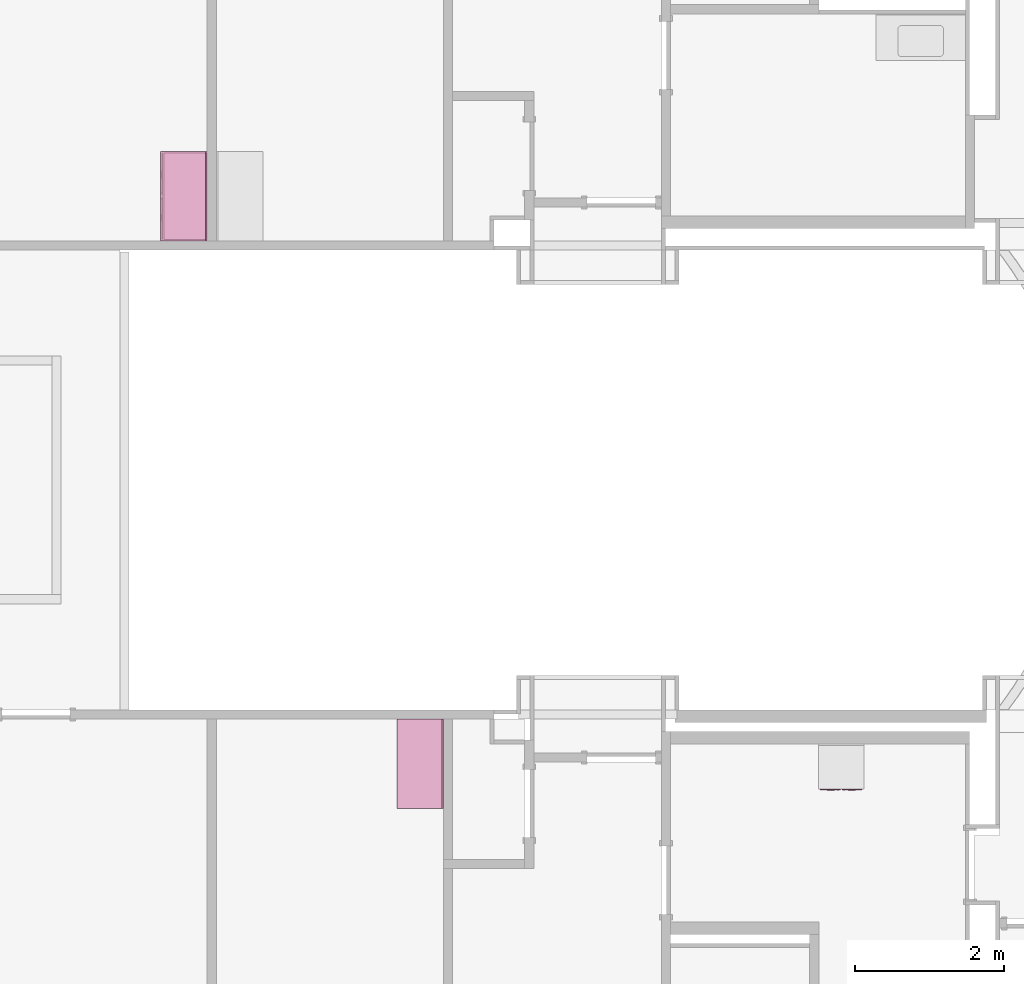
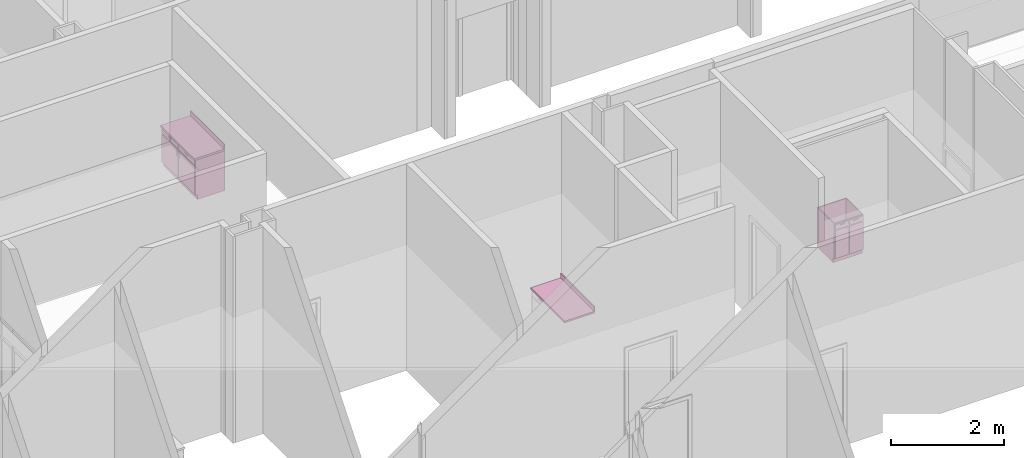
# One storey, part 80 of 87: 4 furnishings, 2 openings.
"""IFC2X3 building model written with IfcOpenShell, lengths in metres."""

from ifc_helpers import new_model, entity, si_unit, converted_unit, frame, frame_2d, origin, place, context, project, spatial, polyline, circle_curve, parameter, trimmed, segment, composite_curve, outline, extrude, face_set, surface_model, source, transform, mapped, type_object, type_shapes, element, save


model = new_model("IFC2X3")

# Units and contexts
model_context = context("Model", 3, precision=1e-09, world=origin())
plan_context = context("Plan", 3, precision=1e-09, world=origin())
ifc_project = project(units=[si_unit("LENGTHUNIT", "METRE"), si_unit("AREAUNIT", "SQUARE_METRE"), si_unit("VOLUMEUNIT", "CUBIC_METRE"), converted_unit("PLANEANGLEUNIT", "DEGREE", entity("IfcRatioMeasure", 0.01745329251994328), si_unit("PLANEANGLEUNIT", "RADIAN"), dimensions=[0, 0, 0, 0, 0, 0, 0]), si_unit("TIMEUNIT", "SECOND")], contexts=[model_context, plan_context])

# Site, building, storey, space
site_placement = place(None, origin())
site = spatial("IfcSite", under=ifc_project, at=site_placement, Name="Default", CompositionType="ELEMENT")
building_placement = place(site_placement, origin())
building = spatial("IfcBuilding", under=site, at=building_placement, CompositionType="ELEMENT")
storey_placement = place(building_placement, origin())
storey = spatial("IfcBuildingStorey", under=building, at=storey_placement, Name="First Floor", CompositionType="ELEMENT", Elevation=-3.531500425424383e-13)
space_1_placement = place(storey_placement, origin())
space_1 = spatial("IfcSpace", under=storey, at=space_1_placement, Name="1D40", CompositionType="ELEMENT", InteriorOrExteriorSpace="INTERNAL")

# Furnishing
furniture_type_1 = type_object("IfcFurnitureType", Name="600mm", AssemblyPlace="NOTDEFINED")
shared_shape_1 = source(origin(), model_context, "Body", "SurfaceModel", [
    surface_model("IfcFaceBasedSurfaceModel", [(0.5809499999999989, 0.0444500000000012, 0.86000000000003), (0.5809499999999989, 0.0444500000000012, 0.09999999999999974), (0.01905000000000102, 0.0444500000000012, 0.09999999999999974), (0.01905000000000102, 0.0444500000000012, 0.86000000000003), (0.5999999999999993, 0.02540000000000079, 0.8600000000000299), (0.0, 0.02540000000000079, 0.8600000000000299), (0.5999999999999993, 0.02540000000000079, 0.09999999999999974), (0.0, 0.02540000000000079, 0.0999999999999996), (0.01905000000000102, 0.6063499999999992, 0.86000000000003), (0.01905000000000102, 0.6063499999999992, 0.09999999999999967), (0.01905000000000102, 0.06040000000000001, 0.09999999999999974), (0.0, 0.6253999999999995, 0.8600000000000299), (0.0, 0.6254000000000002, 0.0), (0.0, 0.06040000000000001, 0.0), (0.0, 0.06040000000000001, 0.09999999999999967), (0.5809499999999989, 0.6063499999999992, 0.86000000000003), (0.5809499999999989, 0.6063499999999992, 0.09999999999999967), (0.5999999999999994, 0.6253999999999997, 0.8600000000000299), (0.5999999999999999, 0.6253999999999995, 0.0), (0.5809499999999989, 0.06040000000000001, 0.09999999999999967), (0.5999999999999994, 0.06040000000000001, 0.09999999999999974), (0.5999999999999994, 0.06040000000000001, 0.0), (0.2103250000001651, 0.0, 0.8155500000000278), (0.2103250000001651, 0.0, 0.8028500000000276), (0.1087250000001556, 0.0, 0.8028500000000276), (0.1087250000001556, 0.0, 0.8155500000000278), (0.4912750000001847, 0.0, 0.8155500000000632), (0.4912750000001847, 0.0, 0.8028500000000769), (0.3896750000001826, 0.0, 0.8028500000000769), (0.3896750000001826, 0.0, 0.8155500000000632), (0.2650750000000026, 0.0, 0.6822000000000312), (0.2650750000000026, 0.0, 0.5806000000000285), (0.2523750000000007, 0.0, 0.5806000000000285), (0.2523750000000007, 0.0, 0.6822000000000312), (0.3476249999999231, 0.0, 0.6822000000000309), (0.3476249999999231, 0.0, 0.5806000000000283), (0.3349249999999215, 0.0, 0.5806000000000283), (0.3349249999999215, 0.0, 0.6822000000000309), (0.2103250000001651, 0.0127000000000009, 0.8155500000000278), (0.2103250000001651, 0.0127000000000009, 0.8028500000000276), (0.1087250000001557, 0.01270000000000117, 0.8028500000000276), (0.1087250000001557, 0.01270000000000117, 0.8155500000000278), (0.4912750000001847, 0.01269999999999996, 0.8155500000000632), (0.4912750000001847, 0.01269999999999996, 0.8028500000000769), (0.3896750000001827, 0.01270000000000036, 0.8028500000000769), (0.3896750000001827, 0.01270000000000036, 0.8155500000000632), (0.2650750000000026, 0.01270000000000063, 0.6822000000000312), (0.2650750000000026, 0.01270000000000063, 0.5806000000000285), (0.2523750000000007, 0.01270000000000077, 0.5806000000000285), (0.2523750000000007, 0.01270000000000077, 0.6822000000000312), (0.3476249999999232, 0.0127000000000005, 0.6822000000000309), (0.3476249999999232, 0.0127000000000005, 0.5806000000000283), (0.3349249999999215, 0.0127000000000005, 0.5806000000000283), (0.3349249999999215, 0.0127000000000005, 0.6822000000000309), (0.2904749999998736, 0.01270000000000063, 0.8409500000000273), (0.2904749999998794, 0.01270000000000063, 0.7393500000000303), (0.01905000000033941, 0.01270000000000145, 0.7393500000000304), (0.01905000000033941, 0.01270000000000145, 0.8409500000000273), (0.5809500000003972, 0.01269999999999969, 0.8409500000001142), (0.5809500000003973, 0.01269999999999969, 0.7393500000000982), (0.3095249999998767, 0.0127000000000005, 0.7393500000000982), (0.309524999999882, 0.0127000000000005, 0.8409500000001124), (0.2904749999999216, 0.01270000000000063, 0.7203000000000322), (0.290474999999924, 0.01270000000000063, 0.1190499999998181), (0.01905000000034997, 0.01270000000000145, 0.1190499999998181), (0.01905000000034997, 0.01270000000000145, 0.7203000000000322), (0.5809500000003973, 0.01269999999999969, 0.7203000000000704), (0.5809500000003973, 0.01269999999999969, 0.1190499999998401), (0.3095249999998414, 0.0127000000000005, 0.1190499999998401), (0.3095249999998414, 0.0127000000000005, 0.7203000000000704), (0.2904749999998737, 0.02540000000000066, 0.8409500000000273), (0.2904749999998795, 0.02540000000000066, 0.7393500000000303), (0.01905000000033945, 0.02540000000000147, 0.7393500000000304), (0.01905000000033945, 0.02540000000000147, 0.8409500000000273), (0.5809500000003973, 0.02539999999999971, 0.8409500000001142), (0.5809500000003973, 0.02539999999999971, 0.7393500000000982), (0.3095249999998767, 0.02540000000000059, 0.7393500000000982), (0.309524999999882, 0.02540000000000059, 0.8409500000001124), (0.2904749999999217, 0.02540000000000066, 0.7203000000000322), (0.290474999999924, 0.02540000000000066, 0.1190499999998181), (0.01905000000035, 0.02540000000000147, 0.1190499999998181), (0.01905000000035, 0.02540000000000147, 0.7203000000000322), (0.5809500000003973, 0.02539999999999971, 0.7203000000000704), (0.5809500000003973, 0.02539999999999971, 0.1190499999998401), (0.3095249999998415, 0.02540000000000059, 0.1190499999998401), (0.3095249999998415, 0.02540000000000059, 0.7203000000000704), (0.580949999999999, 0.6063499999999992, 0.1190499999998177), (0.580949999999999, 0.04445000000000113, 0.1190499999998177), (0.01905000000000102, 0.04445000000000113, 0.1190499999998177), (0.01905000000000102, 0.6063499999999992, 0.1190499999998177), (0.580949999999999, 0.6063499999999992, 0.09999999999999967), (0.580949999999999, 0.04445000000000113, 0.09999999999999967), (0.01905000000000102, 0.04445000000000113, 0.09999999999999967), (0.01905000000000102, 0.6063499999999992, 0.09999999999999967)], [face_set([[[0, 1, 2, 3]], [[0, 4, 5, 3]], [[4, 6, 7, 5]], [[2, 1, 6, 7]], [[3, 8, 9, 10, 2]], [[5, 11, 8, 3]], [[7, 5, 11, 12, 13, 14]], [[2, 7, 14, 10]], [[8, 15, 16, 9]], [[11, 17, 15, 8]], [[12, 11, 17, 18]], [[1, 19, 16, 15, 0]], [[0, 15, 17, 4]], [[4, 6, 20, 21, 18, 17]], [[6, 1, 19, 20]], [[10, 9, 16, 19]], [[18, 21, 13, 12]], [[13, 14, 10, 19, 20, 21]]]), face_set([[[22, 23, 24, 25]], [[26, 27, 28, 29]], [[30, 31, 32, 33]], [[34, 35, 36, 37]], [[38, 39, 40, 41]], [[42, 43, 44, 45]], [[46, 47, 48, 49]], [[50, 51, 52, 53]], [[25, 41, 38, 22]], [[24, 40, 41, 25]], [[23, 24, 40, 39]], [[22, 23, 39, 38]], [[29, 45, 42, 26]], [[28, 44, 45, 29]], [[27, 28, 44, 43]], [[26, 27, 43, 42]], [[33, 49, 46, 30]], [[32, 48, 49, 33]], [[31, 32, 48, 47]], [[30, 31, 47, 46]], [[37, 53, 50, 34]], [[36, 52, 53, 37]], [[35, 36, 52, 51]], [[34, 35, 51, 50]]]), face_set([[[54, 55, 56, 57]], [[58, 59, 60, 61]], [[62, 63, 64, 65]], [[66, 67, 68, 69]], [[70, 71, 72, 73]], [[74, 75, 76, 77]], [[78, 79, 80, 81]], [[82, 83, 84, 85]], [[57, 73, 70, 54]], [[56, 57, 73, 72]], [[55, 56, 72, 71]], [[54, 55, 71, 70]], [[61, 77, 74, 58]], [[60, 76, 77, 61]], [[59, 60, 76, 75]], [[58, 59, 75, 74]], [[65, 81, 78, 62]], [[64, 65, 81, 80]], [[63, 64, 80, 79]], [[62, 63, 79, 78]], [[69, 85, 82, 66]], [[68, 84, 85, 69]], [[67, 68, 84, 83]], [[66, 67, 83, 82]]]), face_set([[[86, 87, 88, 89]], [[90, 91, 92, 93]], [[89, 86, 90, 93]], [[88, 89, 93, 92]], [[87, 91, 92, 88]], [[86, 87, 91, 90]]])]),
])
type_shapes(furniture_type_1, [shared_shape_1])
furnishing_1_placement = place(space_1_placement, frame((-22.25761091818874, 27.52459999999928, 0.0)))
element("IfcFurnishingElement", 1, at=furnishing_1_placement, inside=space_1, type_object=furniture_type_1, Name="M_Base Cabinet-Double Door & 2 Drawer:600mm:600mm", ObjectType="600mm", context=model_context, shape_type="MappedRepresentation", body=[
    mapped(shared_shape_1, transform((0.0, 0.0, 0.0), scale=1.0)),
])

# Space
space_2_placement = place(storey_placement, origin())
space_2 = spatial("IfcSpace", under=storey, at=space_2_placement, Name="1D10", CompositionType="ELEMENT", InteriorOrExteriorSpace="INTERNAL")

# Furnishing
furniture_type_2 = type_object("IfcFurnitureType", Name="1200mm", AssemblyPlace="NOTDEFINED")
shared_shape_2 = source(origin(), model_context, "Body", "SurfaceModel", [
    surface_model("IfcFaceBasedSurfaceModel", [(1.180949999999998, 0.5809499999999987, 0.8600000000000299), (0.01905000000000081, 0.5809499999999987, 0.8600000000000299), (0.01905000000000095, 0.5809499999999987, 0.09999999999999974), (1.180949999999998, 0.5809499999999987, 0.09999999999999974), (0.0, 0.5999999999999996, 0.8600000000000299), (1.2, 0.5999999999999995, 0.8600000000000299), (0.0, 0.5999999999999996, 0.09999999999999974), (1.2, 0.5999999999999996, 0.0999999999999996), (0.01905000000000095, 0.5649999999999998, 0.09999999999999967), (0.01905000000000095, 0.019050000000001, 0.09999999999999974), (0.01905000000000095, 0.019050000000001, 0.8600000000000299), (0.0, 0.0, 0.8600000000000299), (0.0, 0.0, 0.0), (0.0, 0.5649999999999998, 0.0), (0.0, 0.5649999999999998, 0.09999999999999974), (1.180949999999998, 0.01905000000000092, 0.09999999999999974), (1.180949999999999, 0.01905000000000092, 0.8600000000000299), (1.2, 0.0, 0.8600000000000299), (1.2, 0.0, 0.0), (1.180949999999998, 0.5649999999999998, 0.09999999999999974), (1.2, 0.5649999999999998, 0.0), (1.2, 0.5649999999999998, 0.0999999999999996), (0.3603250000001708, 0.6253999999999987, 0.8155500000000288), (0.258725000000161, 0.6253999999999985, 0.8155500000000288), (0.2587250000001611, 0.6253999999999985, 0.8028500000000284), (0.3603250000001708, 0.6253999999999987, 0.8028500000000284), (0.9412750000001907, 0.6254000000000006, 0.8155500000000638), (0.8396750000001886, 0.6254000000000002, 0.8155500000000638), (0.8396750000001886, 0.6254000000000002, 0.8028500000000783), (0.9412750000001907, 0.6254000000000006, 0.8028500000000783), (0.5650750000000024, 0.6253999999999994, 0.6822000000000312), (0.5523750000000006, 0.6253999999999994, 0.6822000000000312), (0.5523750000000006, 0.6253999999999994, 0.5806000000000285), (0.5650750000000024, 0.6253999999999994, 0.5806000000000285), (0.6476249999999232, 0.6253999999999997, 0.6822000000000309), (0.6349249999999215, 0.6253999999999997, 0.6822000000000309), (0.6349249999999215, 0.6253999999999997, 0.5806000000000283), (0.6476249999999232, 0.6253999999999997, 0.5806000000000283), (0.3603250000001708, 0.6126999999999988, 0.8155500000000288), (0.2587250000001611, 0.6126999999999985, 0.8155500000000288), (0.2587250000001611, 0.6126999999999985, 0.8028500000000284), (0.3603250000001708, 0.6126999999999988, 0.8028500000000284), (0.9412750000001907, 0.6127000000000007, 0.8155500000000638), (0.8396750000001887, 0.6127000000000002, 0.8155500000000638), (0.8396750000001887, 0.6127000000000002, 0.8028500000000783), (0.9412750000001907, 0.6127000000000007, 0.8028500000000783), (0.5650750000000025, 0.6126999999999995, 0.6822000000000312), (0.5523750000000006, 0.6126999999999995, 0.6822000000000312), (0.5523750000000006, 0.6126999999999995, 0.5806000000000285), (0.5650750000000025, 0.6126999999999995, 0.5806000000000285), (0.6476249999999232, 0.6126999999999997, 0.6822000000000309), (0.6349249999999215, 0.6126999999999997, 0.6822000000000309), (0.6349249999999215, 0.6126999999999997, 0.5806000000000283), (0.6476249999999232, 0.6126999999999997, 0.5806000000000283), (0.5904749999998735, 0.6126999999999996, 0.8409500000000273), (0.01905000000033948, 0.6126999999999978, 0.8409500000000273), (0.01905000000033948, 0.6126999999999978, 0.7393500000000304), (0.5904749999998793, 0.6126999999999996, 0.7393500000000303), (1.180950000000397, 0.6127000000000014, 0.8409500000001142), (0.6095249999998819, 0.6126999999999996, 0.8409500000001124), (0.6095249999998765, 0.6126999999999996, 0.7393500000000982), (1.180950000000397, 0.6127000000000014, 0.7393500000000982), (0.5904749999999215, 0.6126999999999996, 0.7203000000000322), (0.01905000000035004, 0.6126999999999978, 0.7203000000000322), (0.01905000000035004, 0.6126999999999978, 0.1190499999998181), (0.5904749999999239, 0.6126999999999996, 0.1190499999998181), (1.180950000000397, 0.6127000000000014, 0.7203000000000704), (0.6095249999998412, 0.6126999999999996, 0.7203000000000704), (0.6095249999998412, 0.6126999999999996, 0.1190499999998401), (1.180950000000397, 0.6127000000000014, 0.1190499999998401), (0.5904749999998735, 0.5999999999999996, 0.8409500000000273), (0.01905000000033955, 0.5999999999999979, 0.8409500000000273), (0.01905000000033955, 0.5999999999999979, 0.7393500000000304), (0.5904749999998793, 0.5999999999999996, 0.7393500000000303), (1.180950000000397, 0.6000000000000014, 0.8409500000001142), (0.6095249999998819, 0.5999999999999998, 0.8409500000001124), (0.6095249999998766, 0.5999999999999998, 0.7393500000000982), (1.180950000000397, 0.6000000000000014, 0.7393500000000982), (0.5904749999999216, 0.5999999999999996, 0.7203000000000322), (0.01905000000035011, 0.5999999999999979, 0.7203000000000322), (0.01905000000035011, 0.5999999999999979, 0.1190499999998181), (0.5904749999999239, 0.5999999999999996, 0.1190499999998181), (1.180950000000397, 0.6000000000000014, 0.7203000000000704), (0.6095249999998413, 0.5999999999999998, 0.7203000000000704), (0.6095249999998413, 0.5999999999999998, 0.1190499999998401), (1.180950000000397, 0.6000000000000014, 0.1190499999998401), (1.180949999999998, 0.019050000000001, 0.1190499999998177), (0.01905000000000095, 0.019050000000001, 0.1190499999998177), (0.01905000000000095, 0.5809499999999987, 0.1190499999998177), (1.180949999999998, 0.5809499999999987, 0.1190499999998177), (1.180949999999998, 0.01905000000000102, 0.09999999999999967), (0.01905000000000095, 0.019050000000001, 0.09999999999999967), (0.01905000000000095, 0.5809499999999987, 0.09999999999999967), (1.180949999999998, 0.5809499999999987, 0.09999999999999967)], [face_set([[[0, 1, 2, 3]], [[0, 1, 4, 5]], [[5, 4, 6, 7]], [[2, 6, 7, 3]], [[1, 2, 8, 9, 10]], [[4, 1, 10, 11]], [[6, 4, 11, 12, 13, 14]], [[2, 8, 14, 6]], [[10, 9, 15, 16]], [[11, 10, 16, 17]], [[12, 18, 17, 11]], [[3, 0, 16, 15, 19]], [[0, 5, 17, 16]], [[5, 17, 18, 20, 21, 7]], [[7, 21, 19, 3]], [[8, 19, 15, 9]], [[18, 12, 13, 20]], [[13, 20, 21, 19, 8, 14]]]), face_set([[[22, 23, 24, 25]], [[26, 27, 28, 29]], [[30, 31, 32, 33]], [[34, 35, 36, 37]], [[38, 39, 40, 41]], [[42, 43, 44, 45]], [[46, 47, 48, 49]], [[50, 51, 52, 53]], [[23, 22, 38, 39]], [[24, 23, 39, 40]], [[25, 41, 40, 24]], [[22, 38, 41, 25]], [[27, 26, 42, 43]], [[28, 27, 43, 44]], [[29, 45, 44, 28]], [[26, 42, 45, 29]], [[31, 30, 46, 47]], [[32, 31, 47, 48]], [[33, 49, 48, 32]], [[30, 46, 49, 33]], [[35, 34, 50, 51]], [[36, 35, 51, 52]], [[37, 53, 52, 36]], [[34, 50, 53, 37]]]), face_set([[[54, 55, 56, 57]], [[58, 59, 60, 61]], [[62, 63, 64, 65]], [[66, 67, 68, 69]], [[70, 71, 72, 73]], [[74, 75, 76, 77]], [[78, 79, 80, 81]], [[82, 83, 84, 85]], [[55, 54, 70, 71]], [[56, 72, 71, 55]], [[57, 73, 72, 56]], [[54, 70, 73, 57]], [[59, 58, 74, 75]], [[60, 59, 75, 76]], [[61, 77, 76, 60]], [[58, 74, 77, 61]], [[63, 62, 78, 79]], [[64, 80, 79, 63]], [[65, 81, 80, 64]], [[62, 78, 81, 65]], [[67, 66, 82, 83]], [[68, 67, 83, 84]], [[69, 85, 84, 68]], [[66, 82, 85, 69]]]), face_set([[[86, 87, 88, 89]], [[90, 91, 92, 93]], [[87, 91, 90, 86]], [[88, 92, 91, 87]], [[89, 88, 92, 93]], [[86, 90, 93, 89]]])]),
])
type_shapes(furniture_type_2, [shared_shape_2])
furnishing_2_placement = place(space_2_placement, frame((-30.46375091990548, 34.90354814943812, 0.0), z_axis=(0.0, 0.0, 1.0), x_axis=(0.0, 1.0, 0.0)))
element("IfcFurnishingElement", 2, at=furnishing_2_placement, inside=space_2, type_object=furniture_type_2, Name="M_Base Cabinet-Double Door & 2 Drawer:1200mm:1200mm", ObjectType="1200mm", context=model_context, shape_type="MappedRepresentation", body=[
    mapped(shared_shape_2, transform((0.0, 0.0, 0.0), scale=1.0)),
])

# Furnishing, opening
furniture_type_3 = type_object("IfcFurnitureType", Name="600mm Depth", AssemblyPlace="NOTDEFINED")
shared_shape_3 = source(origin(), model_context, "Body", "SweptSolid", [
    extrude(outline(polyline([(-0.2146833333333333, -0.06053333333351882), (0.4103166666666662, -0.06053333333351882), (0.4103166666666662, -0.02053333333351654), (-0.1956333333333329, -0.02053333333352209), (-0.1956333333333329, 0.08106666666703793), (-0.2146833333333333, 0.08106666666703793), (-0.2146833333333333, -0.06053333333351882)])), frame((-1.200462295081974, 0.2146833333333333, 0.9205333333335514), z_axis=(1.0, 0.0, 0.0), x_axis=(0.0, 1.0, 0.0)), (0.0, 0.0, 1.0), 1.200000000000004),
])
type_shapes(furniture_type_3, [shared_shape_3])
furnishing_3_placement = place(space_2_placement, frame((-30.46400000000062, 36.10401044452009, 0.0), z_axis=(0.0, 0.0, 1.0), x_axis=(0.0, 1.0, 0.0)))
furnishing_3 = element("IfcFurnishingElement", 3, at=furnishing_3_placement, inside=space_2, type_object=furniture_type_3, Name="M_Counter Top w Sink Hole:600mm Depth:600mm Depth", ObjectType="600mm Depth", context=model_context, shape_type="MappedRepresentation", body=[
    mapped(shared_shape_3, transform((0.0, 0.0, 0.0), scale=1.0)),
])
opening_1_placement = place(space_2_placement, frame((-30.46400000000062, 36.10401044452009, 0.0), z_axis=(0.0, 0.0, 1.0), x_axis=(0.0, 1.0, 0.0)))
element("IfcOpeningElement", 4, at=opening_1_placement, cuts=furnishing_3, Name="M_Counter Top w Sink Hole:600mm Depth:600mm Depth:1", ObjectType="Opening", context=model_context, shape_type="SweptSolid", body=[
    extrude(outline(composite_curve([segment(trimmed(circle_curve(frame_2d((-0.2554000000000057, 0.157529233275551), x_axis=(1.0, 0.0)), 0.05079999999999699), [parameter(90.00000000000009)], [parameter(180.0000000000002)], True, "PARAMETER"), True, "CONTINUOUS"), segment(polyline([(-0.306200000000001, 0.157529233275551), (-0.3062000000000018, -0.1575292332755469)]), True, "CONTINUOUS"), segment(trimmed(circle_curve(frame_2d((-0.2554000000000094, -0.1575292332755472), x_axis=(1.0, 0.0)), 0.0507999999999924), [parameter(180.0000000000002)], [parameter(269.9999999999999)], True, "PARAMETER"), True, "CONTINUOUS"), segment(polyline([(-0.2554000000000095, -0.2083292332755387), (0.2554000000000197, -0.2083292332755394)]), True, "CONTINUOUS"), segment(trimmed(circle_curve(frame_2d((0.2554000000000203, -0.1575292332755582), x_axis=(1.0, 0.0)), 0.05079999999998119), [parameter(269.9999999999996)], [parameter(4.071109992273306e-13)], True, "PARAMETER"), True, "CONTINUOUS"), segment(polyline([(0.3062000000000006, -0.1575292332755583), (0.3062000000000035, 0.1575292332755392)]), True, "CONTINUOUS"), segment(trimmed(circle_curve(frame_2d((0.2553999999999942, 0.1575292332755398), x_axis=(1.0, 0.0)), 0.05080000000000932), [parameter(359.9999999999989)], [parameter(89.99999999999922)], True, "PARAMETER"), True, "CONTINUOUS"), segment(polyline([(0.2553999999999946, 0.2083292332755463), (-0.2554000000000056, 0.208329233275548)]), True, "CONTINUOUS")], self_intersect=False)), frame((0.365358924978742, 0.6004622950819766, 0.900000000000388), z_axis=(0.0, 0.0, -1.0), x_axis=(0.0, -1.0, 0.0)), (0.0, 0.0, 1.0), 0.04000000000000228),
])

# Space
space_3_placement = place(storey_placement, origin())
space_3 = spatial("IfcSpace", under=storey, at=space_3_placement, Name="1D35", CompositionType="ELEMENT", InteriorOrExteriorSpace="INTERNAL")

# Furnishing, opening
furniture_type_4 = type_object("IfcFurnitureType", Name="600mm Depth", AssemblyPlace="NOTDEFINED")
shared_shape_4 = source(origin(), model_context, "Body", "SweptSolid", [
    extrude(outline(polyline([(-0.2146833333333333, -0.06053333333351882), (0.4103166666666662, -0.06053333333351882), (0.4103166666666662, -0.02053333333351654), (-0.1956333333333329, -0.02053333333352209), (-0.1956333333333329, 0.08106666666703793), (-0.2146833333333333, 0.08106666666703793), (-0.2146833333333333, -0.06053333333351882)])), frame((-1.200462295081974, 0.2146833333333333, 0.9205333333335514), z_axis=(1.0, 0.0, 0.0), x_axis=(0.0, 1.0, 0.0)), (0.0, 0.0, 1.0), 1.200000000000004),
])
type_shapes(furniture_type_4, [shared_shape_4])
furnishing_4_placement = place(space_3_placement, frame((-27.29399974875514, 28.48646229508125, 0.0), z_axis=(0.0, 0.0, 1.0), x_axis=(0.0, 1.0, 0.0)))
furnishing_4 = element("IfcFurnishingElement", 5, at=furnishing_4_placement, inside=space_3, type_object=furniture_type_4, Name="M_Counter Top w Sink Hole:600mm Depth:600mm Depth", ObjectType="600mm Depth", context=model_context, shape_type="MappedRepresentation", body=[
    mapped(shared_shape_4, transform((0.0, 0.0, 0.0), scale=1.0)),
])
opening_2_placement = place(space_3_placement, frame((-27.29399974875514, 28.48646229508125, 0.0), z_axis=(0.0, 0.0, 1.0), x_axis=(0.0, 1.0, 0.0)))
element("IfcOpeningElement", 6, at=opening_2_placement, cuts=furnishing_4, Name="M_Counter Top w Sink Hole:600mm Depth:600mm Depth:1", ObjectType="Opening", context=model_context, shape_type="SweptSolid", body=[
    extrude(outline(composite_curve([segment(trimmed(circle_curve(frame_2d((-0.2554000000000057, 0.157529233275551), x_axis=(1.0, 0.0)), 0.05079999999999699), [parameter(90.00000000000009)], [parameter(180.0000000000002)], True, "PARAMETER"), True, "CONTINUOUS"), segment(polyline([(-0.306200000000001, 0.157529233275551), (-0.3062000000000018, -0.1575292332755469)]), True, "CONTINUOUS"), segment(trimmed(circle_curve(frame_2d((-0.2554000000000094, -0.1575292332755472), x_axis=(1.0, 0.0)), 0.0507999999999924), [parameter(180.0000000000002)], [parameter(269.9999999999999)], True, "PARAMETER"), True, "CONTINUOUS"), segment(polyline([(-0.2554000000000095, -0.2083292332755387), (0.2554000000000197, -0.2083292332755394)]), True, "CONTINUOUS"), segment(trimmed(circle_curve(frame_2d((0.2554000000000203, -0.1575292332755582), x_axis=(1.0, 0.0)), 0.05079999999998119), [parameter(269.9999999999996)], [parameter(4.071109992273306e-13)], True, "PARAMETER"), True, "CONTINUOUS"), segment(polyline([(0.3062000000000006, -0.1575292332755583), (0.3062000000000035, 0.1575292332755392)]), True, "CONTINUOUS"), segment(trimmed(circle_curve(frame_2d((0.2553999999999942, 0.1575292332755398), x_axis=(1.0, 0.0)), 0.05080000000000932), [parameter(359.9999999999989)], [parameter(89.99999999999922)], True, "PARAMETER"), True, "CONTINUOUS"), segment(polyline([(0.2553999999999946, 0.2083292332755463), (-0.2554000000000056, 0.208329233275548)]), True, "CONTINUOUS")], self_intersect=False)), frame((0.365358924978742, 0.6004622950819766, 0.900000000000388), z_axis=(0.0, 0.0, -1.0), x_axis=(0.0, -1.0, 0.0)), (0.0, 0.0, 1.0), 0.04000000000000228),
])

save(model, "model.ifc")
